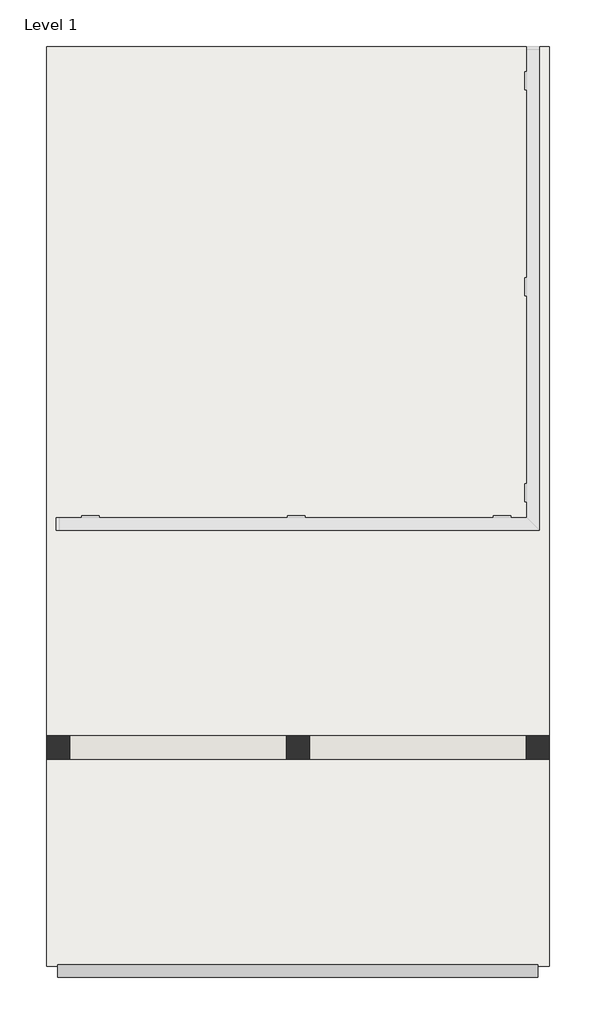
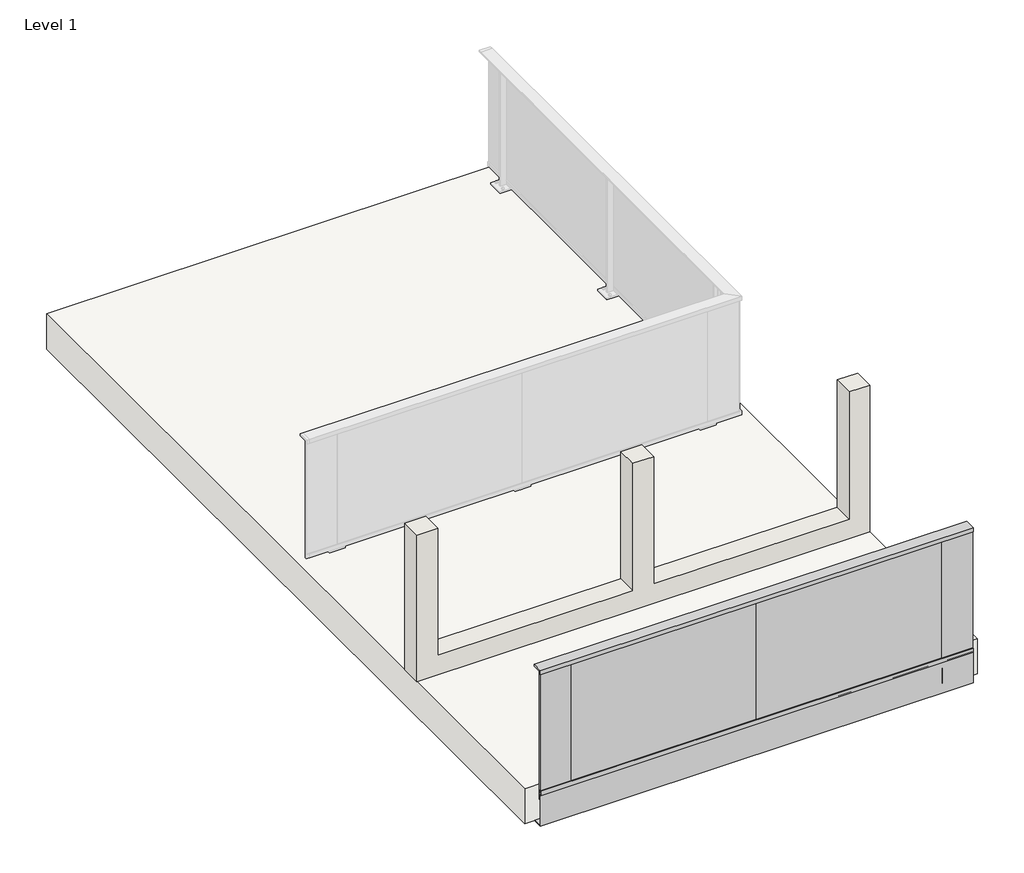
# One storey, part 1 of 2: 1 railing, 1 slab, 1 wall.
"""IFC4 building model written with IfcOpenShell, lengths in millimetres."""

from ifc_helpers import new_model, si_unit, point, frame, frame_2d, origin, place, context, project, spatial, polyline, circle_curve, ellipse_curve, trimmed, segment, composite_curve, outline, extrude, element, save
from ifc_brep_helpers import plane_surface, cylinder_surface, revolved_surface, advanced_brep

model = new_model("IFC4")

# Units and contexts
model_context = context("Model", 3, world=origin())
ifc_project = project(units=[si_unit("LENGTHUNIT", "METRE", prefix="MILLI")], contexts=[model_context])

# Site, building, storey
site = spatial("IfcSite", under=ifc_project)
building = spatial("IfcBuilding", under=site)
storey = spatial("IfcBuildingStorey", under=building, Name="Level 1", Elevation=0.0)

# Railing
placement = place(None, origin())
element("IfcRailing", 1, ObjectType="Klair Garde-Corps - Pose Nez Dalle", at=placement, inside=storey, context=model_context, shape_type="SolidModel", body=[
    extrude(outline(polyline([(1643.0410088, -38.0), (1643.0410088, 0.0), (1649.0410088, 0.0), (1649.0410088, -22.0), (1659.0410088, -22.0), (1659.0410088, 0.0), (1664.0410088, 0.0), (1664.0410088, -78.0), (1661.0410088, -78.0), (1661.0410088, -27.0), (1651.0410088, -27.0), (1651.0410088, -38.0), (1649.0410088, -38.0), (1649.0410088, -27.0), (1645.0410088, -27.0), (1645.0410088, -38.0), (1643.0410088, -38.0)])), frame((-13869.6075858, 0.0, 0.0), z_axis=(1.0, 0.0, 0.0), x_axis=(0.0, 1.0, 0.0)), (0.0, 0.0, 1.0), 3500.0),
    extrude(outline(polyline([(1645.0410088, -300.0), (1645.0410088, -27.0), (1648.0410088, -27.0), (1648.0410088, -297.0), (1725.0410088, -297.0), (1725.0410088, -300.0), (1645.0410088, -300.0)])), frame((-13869.6075858, 0.0, 0.0), z_axis=(1.0, 0.0, 0.0), x_axis=(0.0, 1.0, 0.0)), (0.0, 0.0, 1.0), 3500.0),
    extrude(outline(polyline([(1643.5410088, 1030.0), (1733.5410088, 1030.0), (1733.5410088, 1015.0), (1664.0410088, 1015.0), (1664.0410088, 996.0), (1659.0410088, 996.0), (1659.0410088, 1018.0), (1649.0410088, 1018.0), (1649.0410088, 996.0), (1643.5410088, 996.0), (1643.5410088, 1030.0)])), frame((-13869.6075858, 0.0, 0.0), z_axis=(1.0, 0.0, 0.0), x_axis=(0.0, 1.0, 0.0)), (0.0, 0.0, 1.0), 3500.0),
    extrude(outline(polyline([(-10619.6075858, 1649.0161987), (-10619.6075858, 1659.0161987), (-10369.6075858, 1659.0161987), (-10369.6075858, 1649.0161987), (-10619.6075858, 1649.0161987)])), frame((0.0, 0.0, -22.0), z_axis=(0.0, 0.0, 1.0), x_axis=(1.0, 0.0, 0.0)), (0.0, 0.0, 1.0), 1018.0),
    extrude(outline(polyline([(-13869.6075858, 1649.0161987), (-13869.6075858, 1659.0161987), (-13619.6075858, 1659.0161987), (-13619.6075858, 1649.0161987), (-13869.6075858, 1649.0161987)])), frame((0.0, 0.0, -22.0), z_axis=(0.0, 0.0, 1.0), x_axis=(1.0, 0.0, 0.0)), (0.0, 0.0, 1.0), 1018.0),
    advanced_brep(
    [(-10668.6075858, 1709.0410088, -165.0), (-10668.6075858, 1709.0410088, -156.0087554), (-10668.6075858, 1709.0410088, -173.9912446), (-10668.6075858, 1700.0497642, -165.0)],
    [
        (0, 1),
        (1, 2, circle_curve(frame((-10668.6075858, 1709.0410088, -165.0), z_axis=(0.0, 1.0, 0.0), x_axis=(0.0, 0.0, 1.0)), 8.9912446)),
        (2, 0),
        (2, 1, circle_curve(frame((-10668.6075858, 1709.0410088, -165.0), z_axis=(0.0, 1.0, 0.0), x_axis=(0.0, 0.0, 1.0)), 8.9912446)),
        (1, 3, circle_curve(frame((-10668.6075858, 1709.0410088, -165.0), z_axis=(1.0, 0.0, 0.0), x_axis=(0.0, 1.0, 0.0)), 8.9912446)),
        (3, 2, circle_curve(frame((-10668.6075858, 1709.0410088, -165.0), z_axis=(1.0, 0.0, 0.0), x_axis=(0.0, 1.0, 0.0)), 8.9912446)),
    ],
    [
        plane_surface(frame((-10668.6075858, 1709.0410088, -165.0), z_axis=(0.0, 1.0, 0.0), x_axis=(0.0, 0.0, 1.0))),
        revolved_surface(trimmed(ellipse_curve(frame((-10668.6075858, 1709.0410088, -165.0), z_axis=(-1.0, 0.0, 0.0), x_axis=(0.0, 1.0, 0.0)), 8.9912446, 8.9912446), [point((-10668.6075858, 1700.0497642, -165.0))], [point((-10668.6075858, 1709.0410088, -156.0087554))], True, "CARTESIAN"), (-10668.6075858, 1709.0410088, -165.0), (0.0, 1.0, 0.0)),
    ],
    [
        (0, [[1, 2, 3]]),
        (0, [[-3, 4, -1]]),
        (1, [[-2, 5, 6]]),
        (1, [[-4, -6, -5]]),
    ],
),
    advanced_brep(
    [(-10570.6075858, 1709.0410088, -173.9912446), (-10570.6075858, 1709.0410088, -156.0087554), (-10570.6075858, 1709.0410088, -165.0), (-10570.6075858, 1700.0497642, -165.0)],
    [
        (0, 1, circle_curve(frame((-10570.6075858, 1709.0410088, -165.0), z_axis=(0.0, 1.0, 0.0), x_axis=(0.0, 0.0, 1.0)), 8.9912446)),
        (1, 2),
        (2, 0),
        (1, 0, circle_curve(frame((-10570.6075858, 1709.0410088, -165.0), z_axis=(0.0, 1.0, 0.0), x_axis=(0.0, 0.0, 1.0)), 8.9912446)),
        (3, 1, circle_curve(frame((-10570.6075858, 1709.0410088, -165.0), z_axis=(-1.0, 0.0, 0.0), x_axis=(0.0, 1.0, 0.0)), 8.9912446)),
        (0, 3, circle_curve(frame((-10570.6075858, 1709.0410088, -165.0), z_axis=(-1.0, 0.0, 0.0), x_axis=(0.0, 1.0, 0.0)), 8.9912446)),
    ],
    [
        plane_surface(frame((-10570.6075858, 1709.0410088, -165.0), z_axis=(0.0, 1.0, 0.0), x_axis=(0.0, 0.0, 1.0))),
        revolved_surface(trimmed(ellipse_curve(frame((-10570.6075858, 1709.0410088, -165.0), z_axis=(1.0, 0.0, 0.0), x_axis=(0.0, 1.0, 0.0)), 8.9912446, 8.9912446), [point((-10570.6075858, 1709.0410088, -156.0087554))], [point((-10570.6075858, 1700.0497642, -165.0))], True, "CARTESIAN"), (-10570.6075858, 1709.0410088, -165.0), (0.0, -1.0, 0.0)),
    ],
    [
        (0, [[1, 2, 3]]),
        (0, [[4, -3, -2]]),
        (1, [[5, -1, 6]]),
        (1, [[-6, -4, -5]]),
    ],
),
    extrude(outline(polyline([(-172.1820809, -10563.4255048), (-165.0, -10560.4505895), (-157.8179191, -10563.4255048), (-154.8430037, -10570.6075858), (-157.8179191, -10577.7896667), (-165.0, -10580.764582), (-172.1820809, -10577.7896667), (-175.1569963, -10570.6075858), (-172.1820809, -10563.4255048)])), frame((0.0, 1709.0410088, 0.0), z_axis=(0.0, 1.0, 0.0), x_axis=(0.0, 0.0, 1.0)), (0.0, 0.0, 1.0), 5.0),
    extrude(outline(polyline([(-172.1820809, -10675.7896667), (-175.1569963, -10668.6075858), (-172.1820809, -10661.4255048), (-165.0, -10658.4505895), (-157.8179191, -10661.4255048), (-154.8430037, -10668.6075858), (-157.8179191, -10675.7896667), (-165.0, -10678.764582), (-172.1820809, -10675.7896667)])), frame((0.0, 1709.0410088, 0.0), z_axis=(0.0, 1.0, 0.0), x_axis=(0.0, 0.0, 1.0)), (0.0, 0.0, 1.0), 5.0),
    advanced_brep(
    [(-10648.1303524, 1714.0410088, -100.0), (-10641.1075858, 1707.0182422, -100.0), (-10641.1075858, 1664.4910088, -100.0), (-10626.6575858, 1650.0410088, -100.0), (-10612.5575858, 1650.0410088, -100.0), (-10598.1075858, 1664.4910088, -100.0), (-10598.1075858, 1707.0182422, -100.0), (-10591.0848192, 1714.0410088, -100.0), (-10567.1075858, 1714.0410088, -100.0), (-10567.1075858, 1725.0410088, -100.0), (-10672.1075858, 1725.0410088, -100.0), (-10672.1075858, 1714.0410088, -100.0), (-10630.1075858, 1664.4910088, -100.0), (-10630.1075858, 1714.0410088, -100.0), (-10609.1075858, 1714.0410088, -100.0), (-10609.1075858, 1664.4910088, -100.0), (-10612.5575858, 1661.0410088, -100.0), (-10626.6575858, 1661.0410088, -100.0), (-10641.1075858, 1707.0182422, -230.0), (-10648.1303524, 1714.0410088, -230.0), (-10672.1075858, 1714.0410088, -230.0), (-10672.1075858, 1725.0410088, -230.0), (-10567.1075858, 1725.0410088, -230.0), (-10567.1075858, 1714.0410088, -230.0), (-10591.0848192, 1714.0410088, -230.0), (-10598.1075858, 1707.0182422, -230.0), (-10598.1075858, 1664.4910088, -230.0), (-10612.5575858, 1650.0410088, -230.0), (-10626.6575858, 1650.0410088, -230.0), (-10641.1075858, 1664.4910088, -230.0), (-10630.1075858, 1714.0410088, -230.0), (-10630.1075858, 1664.4910088, -230.0), (-10626.6575858, 1661.0410088, -230.0), (-10612.5575858, 1661.0410088, -230.0), (-10609.1075858, 1664.4910088, -230.0), (-10609.1075858, 1714.0410088, -230.0), (-10687.1075858, 1725.0410088, -115.0), (-10552.1075858, 1725.0410088, -115.0), (-10552.1075858, 1725.0410088, -215.0), (-10687.1075858, 1725.0410088, -215.0), (-10687.1075858, 1714.0410088, -115.0), (-10687.1075858, 1714.0410088, -215.0), (-10552.1075858, 1714.0410088, -215.0), (-10552.1075858, 1714.0410088, -115.0)],
    [
        (0, 1, circle_curve(frame((-10648.1303524, 1707.0182422, -100.0), z_axis=(0.0, 0.0, -1.0), x_axis=(0.0, 1.0, 0.0)), 7.0227666)),
        (1, 2),
        (2, 3, circle_curve(frame((-10626.6575858, 1664.4910088, -100.0), z_axis=(0.0, 0.0, 1.0), x_axis=(0.0, 1.0, 0.0)), 14.45)),
        (3, 4),
        (4, 5, circle_curve(frame((-10612.5575858, 1664.4910088, -100.0), z_axis=(0.0, 0.0, 1.0), x_axis=(0.0, 1.0, 0.0)), 14.45)),
        (5, 6),
        (6, 7, circle_curve(frame((-10591.0848192, 1707.0182422, -100.0), z_axis=(0.0, 0.0, -1.0), x_axis=(0.0, 1.0, 0.0)), 7.0227666)),
        (7, 8),
        (8, 9),
        (9, 10),
        (10, 11),
        (11, 0),
        (12, 13),
        (13, 14),
        (14, 15),
        (15, 16, circle_curve(frame((-10612.5575858, 1664.4910088, -100.0), z_axis=(0.0, 0.0, -1.0), x_axis=(0.0, 1.0, 0.0)), 3.45)),
        (16, 17),
        (17, 12, circle_curve(frame((-10626.6575858, 1664.4910088, -100.0), z_axis=(0.0, 0.0, -1.0), x_axis=(0.0, 1.0, 0.0)), 3.45)),
        (18, 19, circle_curve(frame((-10648.1303524, 1707.0182422, -230.0), z_axis=(0.0, 0.0, 1.0), x_axis=(0.0, 1.0, 0.0)), 7.0227666)),
        (19, 20),
        (20, 21),
        (21, 22),
        (22, 23),
        (23, 24),
        (24, 25, circle_curve(frame((-10591.0848192, 1707.0182422, -230.0), z_axis=(0.0, 0.0, 1.0), x_axis=(0.0, 1.0, 0.0)), 7.0227666)),
        (25, 26),
        (26, 27, circle_curve(frame((-10612.5575858, 1664.4910088, -230.0), z_axis=(0.0, 0.0, -1.0), x_axis=(0.0, 1.0, 0.0)), 14.45)),
        (27, 28),
        (28, 29, circle_curve(frame((-10626.6575858, 1664.4910088, -230.0), z_axis=(0.0, 0.0, -1.0), x_axis=(0.0, 1.0, 0.0)), 14.45)),
        (29, 18),
        (30, 31),
        (31, 32, circle_curve(frame((-10626.6575858, 1664.4910088, -230.0), z_axis=(0.0, 0.0, 1.0), x_axis=(0.0, 1.0, 0.0)), 3.45)),
        (32, 33),
        (33, 34, circle_curve(frame((-10612.5575858, 1664.4910088, -230.0), z_axis=(0.0, 0.0, 1.0), x_axis=(0.0, 1.0, 0.0)), 3.45)),
        (34, 35),
        (35, 30),
        (36, 10, circle_curve(frame((-10672.1075858, 1725.0410088, -115.0), z_axis=(0.0, 1.0, 0.0), x_axis=(1.0, 0.0, 0.0)), 15.0)),
        (9, 37, circle_curve(frame((-10567.1075858, 1725.0410088, -115.0), z_axis=(0.0, 1.0, 0.0), x_axis=(1.0, 0.0, 0.0)), 15.0)),
        (37, 38),
        (38, 22, circle_curve(frame((-10567.1075858, 1725.0410088, -215.0), z_axis=(0.0, 1.0, 0.0), x_axis=(1.0, 0.0, 0.0)), 15.0)),
        (21, 39, circle_curve(frame((-10672.1075858, 1725.0410088, -215.0), z_axis=(0.0, 1.0, 0.0), x_axis=(1.0, 0.0, 0.0)), 15.0)),
        (39, 36),
        (13, 30),
        (35, 14),
        (40, 41),
        (41, 20, circle_curve(frame((-10672.1075858, 1714.0410088, -215.0), z_axis=(0.0, -1.0, 0.0), x_axis=(1.0, 0.0, 0.0)), 15.0)),
        (19, 0),
        (11, 40, circle_curve(frame((-10672.1075858, 1714.0410088, -115.0), z_axis=(0.0, -1.0, 0.0), x_axis=(1.0, 0.0, 0.0)), 15.0)),
        (23, 42, circle_curve(frame((-10567.1075858, 1714.0410088, -215.0), z_axis=(0.0, -1.0, 0.0), x_axis=(1.0, 0.0, 0.0)), 15.0)),
        (42, 43),
        (43, 8, circle_curve(frame((-10567.1075858, 1714.0410088, -115.0), z_axis=(0.0, -1.0, 0.0), x_axis=(1.0, 0.0, 0.0)), 15.0)),
        (7, 24),
        (39, 41),
        (40, 36),
        (38, 42),
        (37, 43),
        (18, 1),
        (29, 2),
        (28, 3),
        (27, 4),
        (26, 5),
        (25, 6),
        (34, 15),
        (33, 16),
        (32, 17),
        (31, 12),
    ],
    [
        plane_surface(frame((-10687.1075858, 1714.0410088, -100.0), z_axis=(0.0, 0.0, 1.0), x_axis=(-1.0, 0.0, 0.0))),
        plane_surface(frame((-10687.1075858, 1714.0410088, -230.0), z_axis=(0.0, 0.0, -1.0), x_axis=(1.0, 0.0, 0.0))),
        plane_surface(frame((-10657.1075858, 1725.0410088, -115.0), z_axis=(0.0, 1.0, 0.0), x_axis=(0.0, 0.0, -1.0))),
        plane_surface(frame((-10657.1075858, 1714.0410088, -115.0), z_axis=(0.0, -1.0, 0.0), x_axis=(0.0, 0.0, 1.0))),
        plane_surface(frame((-10687.1075858, 1725.0410088, -215.0), z_axis=(-1.0, 0.0, 0.0), x_axis=(0.0, -1.0, 0.0))),
        cylinder_surface(frame((-10672.1075858, 1714.0410088, -215.0), z_axis=(0.0, 1.0, 0.0), x_axis=(1.0, 0.0, 0.0)), 15.0),
        cylinder_surface(frame((-10567.1075858, 1714.0410088, -215.0), z_axis=(0.0, 1.0, 0.0), x_axis=(1.0, 0.0, 0.0)), 15.0),
        plane_surface(frame((-10552.1075858, 1725.0410088, -115.0), z_axis=(1.0, 0.0, 0.0), x_axis=(0.0, -1.0, 0.0))),
        cylinder_surface(frame((-10567.1075858, 1714.0410088, -115.0), z_axis=(0.0, 1.0, 0.0), x_axis=(1.0, 0.0, 0.0)), 15.0),
        cylinder_surface(frame((-10672.1075858, 1714.0410088, -115.0), z_axis=(0.0, 1.0, 0.0), x_axis=(1.0, 0.0, 0.0)), 15.0),
        revolved_surface(polyline([(-10648.1303524, 1714.0410088, -230.0), (-10648.1303524, 1714.0410088, -100.0)]), (-10648.1303524, 1707.0182422, -230.0), (0.0, 0.0, -1.0)),
        plane_surface(frame((-10641.1075858, 1707.0182422, -100.0), z_axis=(-1.0, 0.0, 0.0), x_axis=(0.0, 0.0, -1.0))),
        cylinder_surface(frame((-10626.6575858, 1664.4910088, -230.0), z_axis=(0.0, 0.0, 1.0), x_axis=(0.0, 1.0, 0.0)), 14.45),
        plane_surface(frame((-10626.6575858, 1650.0410088, -100.0), z_axis=(0.0, -1.0, 0.0), x_axis=(0.0, 0.0, -1.0))),
        cylinder_surface(frame((-10612.5575858, 1664.4910088, -230.0), z_axis=(0.0, 0.0, 1.0), x_axis=(0.0, 1.0, 0.0)), 14.45),
        plane_surface(frame((-10598.1075858, 1664.4910088, -100.0), z_axis=(1.0, 0.0, 0.0), x_axis=(0.0, 0.0, -1.0))),
        revolved_surface(polyline([(-10591.0848192, 1714.0410088, -230.0), (-10591.0848192, 1714.0410088, -100.0)]), (-10591.0848192, 1707.0182422, -230.0), (0.0, 0.0, -1.0)),
        plane_surface(frame((-10609.1075858, 1714.0410088, -100.0), z_axis=(-1.0, 0.0, 0.0), x_axis=(0.0, 0.0, -1.0))),
        revolved_surface(polyline([(-10612.5575858, 1667.9410088, -230.0), (-10612.5575858, 1667.9410088, -100.0)]), (-10612.5575858, 1664.4910088, -230.0), (0.0, 0.0, -1.0)),
        plane_surface(frame((-10612.5575858, 1661.0410088, -100.0), z_axis=(0.0, 1.0, 0.0), x_axis=(0.0, 0.0, -1.0))),
        revolved_surface(polyline([(-10626.6575858, 1667.9410088, -230.0), (-10626.6575858, 1667.9410088, -100.0)]), (-10626.6575858, 1664.4910088, -230.0), (0.0, 0.0, -1.0)),
        plane_surface(frame((-10630.1075858, 1664.4910088, -100.0), z_axis=(1.0, 0.0, 0.0), x_axis=(0.0, 0.0, -1.0))),
    ],
    [
        (0, [[1, 2, 3, 4, 5, 6, 7, 8, 9, 10, 11, 12], [13, 14, 15, 16, 17, 18]]),
        (1, [[19, 20, 21, 22, 23, 24, 25, 26, 27, 28, 29, 30], [31, 32, 33, 34, 35, 36]]),
        (2, [[37, -10, 38, 39, 40, -22, 41, 42]]),
        (3, [[-14, 43, -36, 44]]),
        (3, [[45, 46, -20, 47, -12, 48]]),
        (3, [[49, 50, 51, -8, 52, -24]]),
        (4, [[-42, 53, -45, 54]]),
        (5, [[-41, -21, -46, -53]]),
        (6, [[-40, 55, -49, -23]]),
        (7, [[-39, 56, -50, -55]]),
        (8, [[-38, -9, -51, -56]]),
        (9, [[-37, -54, -48, -11]]),
        (10, [[-1, -47, -19, 57]]),
        (11, [[-2, -57, -30, 58]]),
        (12, [[-3, -58, -29, 59]]),
        (13, [[-4, -59, -28, 60]]),
        (14, [[-5, -60, -27, 61]]),
        (15, [[-6, -61, -26, 62]]),
        (16, [[-7, -62, -25, -52]]),
        (17, [[-15, -44, -35, 63]]),
        (18, [[-16, -63, -34, 64]]),
        (19, [[-17, -64, -33, 65]]),
        (20, [[-18, -65, -32, 66]]),
        (21, [[-13, -66, -31, -43]]),
    ],
),
    extrude(outline(polyline([(-10627.1075858, 1714.0410088), (-10612.1075858, 1714.0410088), (-10612.1075858, 1664.0410088), (-10627.1075858, 1664.0410088), (-10627.1075858, 1714.0410088)]), holes=[composite_curve([segment(trimmed(circle_curve(frame_2d((-10619.6075858, 1689.0410088)), 5.0234856), [point((-10619.6075858, 1684.0175232))], [point((-10619.6075858, 1694.0644944))], True, "CARTESIAN"), True, "CONTINUOUS"), segment(trimmed(circle_curve(frame_2d((-10619.6075858, 1689.0410088)), 5.0234856), [point((-10619.6075858, 1694.0644944))], [point((-10619.6075858, 1684.0175232))], True, "CARTESIAN"), True, "CONTINUOUS")], self_intersect=False)]), frame((0.0, 0.0, -297.0), z_axis=(0.0, 0.0, 1.0), x_axis=(1.0, 0.0, 0.0)), (0.0, 0.0, 1.0), 1312.0),
    extrude(outline(polyline([(-12119.6075858, 1659.0161987), (-10619.6075858, 1659.0161987), (-10619.6075858, 1649.0161987), (-12119.6075858, 1649.0161987), (-12119.6075858, 1659.0161987)])), frame((0.0, 0.0, -22.0), z_axis=(0.0, 0.0, 1.0), x_axis=(1.0, 0.0, 0.0)), (0.0, 0.0, 1.0), 1040.0),
    extrude(outline(polyline([(1666.5410088, 0.0), (1711.5410088, 0.0), (1711.5410088, -15.0), (1666.5410088, -15.0), (1666.5410088, 0.0)]), holes=[polyline([(1668.0410088, -1.5), (1668.0410088, -13.5), (1710.0410088, -13.5), (1710.0410088, -1.5), (1668.0410088, -1.5)])]), frame((-12112.1075858, 0.0, 0.0), z_axis=(1.0, 0.0, 0.0), x_axis=(0.0, 1.0, 0.0)), (0.0, 0.0, 1.0), 1485.0),
    advanced_brep(
    [(-12168.6075858, 1709.0410088, -165.0), (-12168.6075858, 1709.0410088, -156.0087554), (-12168.6075858, 1709.0410088, -173.9912446), (-12168.6075858, 1700.0497642, -165.0)],
    [
        (0, 1),
        (1, 2, circle_curve(frame((-12168.6075858, 1709.0410088, -165.0), z_axis=(0.0, 1.0, 0.0), x_axis=(0.0, 0.0, 1.0)), 8.9912446)),
        (2, 0),
        (2, 1, circle_curve(frame((-12168.6075858, 1709.0410088, -165.0), z_axis=(0.0, 1.0, 0.0), x_axis=(0.0, 0.0, 1.0)), 8.9912446)),
        (1, 3, circle_curve(frame((-12168.6075858, 1709.0410088, -165.0), z_axis=(1.0, 0.0, 0.0), x_axis=(0.0, 1.0, 0.0)), 8.9912446)),
        (3, 2, circle_curve(frame((-12168.6075858, 1709.0410088, -165.0), z_axis=(1.0, 0.0, 0.0), x_axis=(0.0, 1.0, 0.0)), 8.9912446)),
    ],
    [
        plane_surface(frame((-12168.6075858, 1709.0410088, -165.0), z_axis=(0.0, 1.0, 0.0), x_axis=(0.0, 0.0, 1.0))),
        revolved_surface(trimmed(ellipse_curve(frame((-12168.6075858, 1709.0410088, -165.0), z_axis=(-1.0, 0.0, 0.0), x_axis=(0.0, 1.0, 0.0)), 8.9912446, 8.9912446), [point((-12168.6075858, 1700.0497642, -165.0))], [point((-12168.6075858, 1709.0410088, -156.0087554))], True, "CARTESIAN"), (-12168.6075858, 1709.0410088, -165.0), (0.0, 1.0, 0.0)),
    ],
    [
        (0, [[1, 2, 3]]),
        (0, [[-3, 4, -1]]),
        (1, [[-2, 5, 6]]),
        (1, [[-4, -6, -5]]),
    ],
),
    advanced_brep(
    [(-12070.6075858, 1709.0410088, -173.9912446), (-12070.6075858, 1709.0410088, -156.0087554), (-12070.6075858, 1709.0410088, -165.0), (-12070.6075858, 1700.0497642, -165.0)],
    [
        (0, 1, circle_curve(frame((-12070.6075858, 1709.0410088, -165.0), z_axis=(0.0, 1.0, 0.0), x_axis=(0.0, 0.0, 1.0)), 8.9912446)),
        (1, 2),
        (2, 0),
        (1, 0, circle_curve(frame((-12070.6075858, 1709.0410088, -165.0), z_axis=(0.0, 1.0, 0.0), x_axis=(0.0, 0.0, 1.0)), 8.9912446)),
        (3, 1, circle_curve(frame((-12070.6075858, 1709.0410088, -165.0), z_axis=(-1.0, 0.0, 0.0), x_axis=(0.0, 1.0, 0.0)), 8.9912446)),
        (0, 3, circle_curve(frame((-12070.6075858, 1709.0410088, -165.0), z_axis=(-1.0, 0.0, 0.0), x_axis=(0.0, 1.0, 0.0)), 8.9912446)),
    ],
    [
        plane_surface(frame((-12070.6075858, 1709.0410088, -165.0), z_axis=(0.0, 1.0, 0.0), x_axis=(0.0, 0.0, 1.0))),
        revolved_surface(trimmed(ellipse_curve(frame((-12070.6075858, 1709.0410088, -165.0), z_axis=(1.0, 0.0, 0.0), x_axis=(0.0, 1.0, 0.0)), 8.9912446, 8.9912446), [point((-12070.6075858, 1709.0410088, -156.0087554))], [point((-12070.6075858, 1700.0497642, -165.0))], True, "CARTESIAN"), (-12070.6075858, 1709.0410088, -165.0), (0.0, -1.0, 0.0)),
    ],
    [
        (0, [[1, 2, 3]]),
        (0, [[4, -3, -2]]),
        (1, [[5, -1, 6]]),
        (1, [[-6, -4, -5]]),
    ],
),
    extrude(outline(polyline([(-172.1820809, -12063.4255048), (-165.0, -12060.4505895), (-157.8179191, -12063.4255048), (-154.8430037, -12070.6075858), (-157.8179191, -12077.7896667), (-165.0, -12080.764582), (-172.1820809, -12077.7896667), (-175.1569963, -12070.6075858), (-172.1820809, -12063.4255048)])), frame((0.0, 1709.0410088, 0.0), z_axis=(0.0, 1.0, 0.0), x_axis=(0.0, 0.0, 1.0)), (0.0, 0.0, 1.0), 5.0),
    extrude(outline(polyline([(-172.1820809, -12175.7896667), (-175.1569963, -12168.6075858), (-172.1820809, -12161.4255048), (-165.0, -12158.4505895), (-157.8179191, -12161.4255048), (-154.8430037, -12168.6075858), (-157.8179191, -12175.7896667), (-165.0, -12178.764582), (-172.1820809, -12175.7896667)])), frame((0.0, 1709.0410088, 0.0), z_axis=(0.0, 1.0, 0.0), x_axis=(0.0, 0.0, 1.0)), (0.0, 0.0, 1.0), 5.0),
    advanced_brep(
    [(-12148.1303524, 1714.0410088, -100.0), (-12141.1075858, 1707.0182422, -100.0), (-12141.1075858, 1664.4910088, -100.0), (-12126.6575858, 1650.0410088, -100.0), (-12112.5575858, 1650.0410088, -100.0), (-12098.1075858, 1664.4910088, -100.0), (-12098.1075858, 1707.0182422, -100.0), (-12091.0848192, 1714.0410088, -100.0), (-12067.1075858, 1714.0410088, -100.0), (-12067.1075858, 1725.0410088, -100.0), (-12172.1075858, 1725.0410088, -100.0), (-12172.1075858, 1714.0410088, -100.0), (-12130.1075858, 1664.4910088, -100.0), (-12130.1075858, 1714.0410088, -100.0), (-12109.1075858, 1714.0410088, -100.0), (-12109.1075858, 1664.4910088, -100.0), (-12112.5575858, 1661.0410088, -100.0), (-12126.6575858, 1661.0410088, -100.0), (-12141.1075858, 1707.0182422, -230.0), (-12148.1303524, 1714.0410088, -230.0), (-12172.1075858, 1714.0410088, -230.0), (-12172.1075858, 1725.0410088, -230.0), (-12067.1075858, 1725.0410088, -230.0), (-12067.1075858, 1714.0410088, -230.0), (-12091.0848192, 1714.0410088, -230.0), (-12098.1075858, 1707.0182422, -230.0), (-12098.1075858, 1664.4910088, -230.0), (-12112.5575858, 1650.0410088, -230.0), (-12126.6575858, 1650.0410088, -230.0), (-12141.1075858, 1664.4910088, -230.0), (-12130.1075858, 1714.0410088, -230.0), (-12130.1075858, 1664.4910088, -230.0), (-12126.6575858, 1661.0410088, -230.0), (-12112.5575858, 1661.0410088, -230.0), (-12109.1075858, 1664.4910088, -230.0), (-12109.1075858, 1714.0410088, -230.0), (-12187.1075858, 1725.0410088, -115.0), (-12052.1075858, 1725.0410088, -115.0), (-12052.1075858, 1725.0410088, -215.0), (-12187.1075858, 1725.0410088, -215.0), (-12187.1075858, 1714.0410088, -115.0), (-12187.1075858, 1714.0410088, -215.0), (-12052.1075858, 1714.0410088, -215.0), (-12052.1075858, 1714.0410088, -115.0)],
    [
        (0, 1, circle_curve(frame((-12148.1303524, 1707.0182422, -100.0), z_axis=(0.0, 0.0, -1.0), x_axis=(0.0, 1.0, 0.0)), 7.0227666)),
        (1, 2),
        (2, 3, circle_curve(frame((-12126.6575858, 1664.4910088, -100.0), z_axis=(0.0, 0.0, 1.0), x_axis=(0.0, 1.0, 0.0)), 14.45)),
        (3, 4),
        (4, 5, circle_curve(frame((-12112.5575858, 1664.4910088, -100.0), z_axis=(0.0, 0.0, 1.0), x_axis=(0.0, 1.0, 0.0)), 14.45)),
        (5, 6),
        (6, 7, circle_curve(frame((-12091.0848192, 1707.0182422, -100.0), z_axis=(0.0, 0.0, -1.0), x_axis=(0.0, 1.0, 0.0)), 7.0227666)),
        (7, 8),
        (8, 9),
        (9, 10),
        (10, 11),
        (11, 0),
        (12, 13),
        (13, 14),
        (14, 15),
        (15, 16, circle_curve(frame((-12112.5575858, 1664.4910088, -100.0), z_axis=(0.0, 0.0, -1.0), x_axis=(0.0, 1.0, 0.0)), 3.45)),
        (16, 17),
        (17, 12, circle_curve(frame((-12126.6575858, 1664.4910088, -100.0), z_axis=(0.0, 0.0, -1.0), x_axis=(0.0, 1.0, 0.0)), 3.45)),
        (18, 19, circle_curve(frame((-12148.1303524, 1707.0182422, -230.0), z_axis=(0.0, 0.0, 1.0), x_axis=(0.0, 1.0, 0.0)), 7.0227666)),
        (19, 20),
        (20, 21),
        (21, 22),
        (22, 23),
        (23, 24),
        (24, 25, circle_curve(frame((-12091.0848192, 1707.0182422, -230.0), z_axis=(0.0, 0.0, 1.0), x_axis=(0.0, 1.0, 0.0)), 7.0227666)),
        (25, 26),
        (26, 27, circle_curve(frame((-12112.5575858, 1664.4910088, -230.0), z_axis=(0.0, 0.0, -1.0), x_axis=(0.0, 1.0, 0.0)), 14.45)),
        (27, 28),
        (28, 29, circle_curve(frame((-12126.6575858, 1664.4910088, -230.0), z_axis=(0.0, 0.0, -1.0), x_axis=(0.0, 1.0, 0.0)), 14.45)),
        (29, 18),
        (30, 31),
        (31, 32, circle_curve(frame((-12126.6575858, 1664.4910088, -230.0), z_axis=(0.0, 0.0, 1.0), x_axis=(0.0, 1.0, 0.0)), 3.45)),
        (32, 33),
        (33, 34, circle_curve(frame((-12112.5575858, 1664.4910088, -230.0), z_axis=(0.0, 0.0, 1.0), x_axis=(0.0, 1.0, 0.0)), 3.45)),
        (34, 35),
        (35, 30),
        (36, 10, circle_curve(frame((-12172.1075858, 1725.0410088, -115.0), z_axis=(0.0, 1.0, 0.0), x_axis=(1.0, 0.0, 0.0)), 15.0)),
        (9, 37, circle_curve(frame((-12067.1075858, 1725.0410088, -115.0), z_axis=(0.0, 1.0, 0.0), x_axis=(1.0, 0.0, 0.0)), 15.0)),
        (37, 38),
        (38, 22, circle_curve(frame((-12067.1075858, 1725.0410088, -215.0), z_axis=(0.0, 1.0, 0.0), x_axis=(1.0, 0.0, 0.0)), 15.0)),
        (21, 39, circle_curve(frame((-12172.1075858, 1725.0410088, -215.0), z_axis=(0.0, 1.0, 0.0), x_axis=(1.0, 0.0, 0.0)), 15.0)),
        (39, 36),
        (13, 30),
        (35, 14),
        (40, 41),
        (41, 20, circle_curve(frame((-12172.1075858, 1714.0410088, -215.0), z_axis=(0.0, -1.0, 0.0), x_axis=(1.0, 0.0, 0.0)), 15.0)),
        (19, 0),
        (11, 40, circle_curve(frame((-12172.1075858, 1714.0410088, -115.0), z_axis=(0.0, -1.0, 0.0), x_axis=(1.0, 0.0, 0.0)), 15.0)),
        (23, 42, circle_curve(frame((-12067.1075858, 1714.0410088, -215.0), z_axis=(0.0, -1.0, 0.0), x_axis=(1.0, 0.0, 0.0)), 15.0)),
        (42, 43),
        (43, 8, circle_curve(frame((-12067.1075858, 1714.0410088, -115.0), z_axis=(0.0, -1.0, 0.0), x_axis=(1.0, 0.0, 0.0)), 15.0)),
        (7, 24),
        (39, 41),
        (40, 36),
        (38, 42),
        (37, 43),
        (18, 1),
        (29, 2),
        (28, 3),
        (27, 4),
        (26, 5),
        (25, 6),
        (34, 15),
        (33, 16),
        (32, 17),
        (31, 12),
    ],
    [
        plane_surface(frame((-12187.1075858, 1714.0410088, -100.0), z_axis=(0.0, 0.0, 1.0), x_axis=(-1.0, 0.0, 0.0))),
        plane_surface(frame((-12187.1075858, 1714.0410088, -230.0), z_axis=(0.0, 0.0, -1.0), x_axis=(1.0, 0.0, 0.0))),
        plane_surface(frame((-12157.1075858, 1725.0410088, -115.0), z_axis=(0.0, 1.0, 0.0), x_axis=(0.0, 0.0, -1.0))),
        plane_surface(frame((-12157.1075858, 1714.0410088, -115.0), z_axis=(0.0, -1.0, 0.0), x_axis=(0.0, 0.0, 1.0))),
        plane_surface(frame((-12187.1075858, 1725.0410088, -215.0), z_axis=(-1.0, 0.0, 0.0), x_axis=(0.0, -1.0, 0.0))),
        cylinder_surface(frame((-12172.1075858, 1714.0410088, -215.0), z_axis=(0.0, 1.0, 0.0), x_axis=(1.0, 0.0, 0.0)), 15.0),
        cylinder_surface(frame((-12067.1075858, 1714.0410088, -215.0), z_axis=(0.0, 1.0, 0.0), x_axis=(1.0, 0.0, 0.0)), 15.0),
        plane_surface(frame((-12052.1075858, 1725.0410088, -115.0), z_axis=(1.0, 0.0, 0.0), x_axis=(0.0, -1.0, 0.0))),
        cylinder_surface(frame((-12067.1075858, 1714.0410088, -115.0), z_axis=(0.0, 1.0, 0.0), x_axis=(1.0, 0.0, 0.0)), 15.0),
        cylinder_surface(frame((-12172.1075858, 1714.0410088, -115.0), z_axis=(0.0, 1.0, 0.0), x_axis=(1.0, 0.0, 0.0)), 15.0),
        revolved_surface(polyline([(-12148.1303524, 1714.0410088, -230.0), (-12148.1303524, 1714.0410088, -100.0)]), (-12148.1303524, 1707.0182422, -230.0), (0.0, 0.0, -1.0)),
        plane_surface(frame((-12141.1075858, 1707.0182422, -100.0), z_axis=(-1.0, 0.0, 0.0), x_axis=(0.0, 0.0, -1.0))),
        cylinder_surface(frame((-12126.6575858, 1664.4910088, -230.0), z_axis=(0.0, 0.0, 1.0), x_axis=(0.0, 1.0, 0.0)), 14.45),
        plane_surface(frame((-12126.6575858, 1650.0410088, -100.0), z_axis=(0.0, -1.0, 0.0), x_axis=(0.0, 0.0, -1.0))),
        cylinder_surface(frame((-12112.5575858, 1664.4910088, -230.0), z_axis=(0.0, 0.0, 1.0), x_axis=(0.0, 1.0, 0.0)), 14.45),
        plane_surface(frame((-12098.1075858, 1664.4910088, -100.0), z_axis=(1.0, 0.0, 0.0), x_axis=(0.0, 0.0, -1.0))),
        revolved_surface(polyline([(-12091.0848192, 1714.0410088, -230.0), (-12091.0848192, 1714.0410088, -100.0)]), (-12091.0848192, 1707.0182422, -230.0), (0.0, 0.0, -1.0)),
        plane_surface(frame((-12109.1075858, 1714.0410088, -100.0), z_axis=(-1.0, 0.0, 0.0), x_axis=(0.0, 0.0, -1.0))),
        revolved_surface(polyline([(-12112.5575858, 1667.9410088, -230.0), (-12112.5575858, 1667.9410088, -100.0)]), (-12112.5575858, 1664.4910088, -230.0), (0.0, 0.0, -1.0)),
        plane_surface(frame((-12112.5575858, 1661.0410088, -100.0), z_axis=(0.0, 1.0, 0.0), x_axis=(0.0, 0.0, -1.0))),
        revolved_surface(polyline([(-12126.6575858, 1667.9410088, -230.0), (-12126.6575858, 1667.9410088, -100.0)]), (-12126.6575858, 1664.4910088, -230.0), (0.0, 0.0, -1.0)),
        plane_surface(frame((-12130.1075858, 1664.4910088, -100.0), z_axis=(1.0, 0.0, 0.0), x_axis=(0.0, 0.0, -1.0))),
    ],
    [
        (0, [[1, 2, 3, 4, 5, 6, 7, 8, 9, 10, 11, 12], [13, 14, 15, 16, 17, 18]]),
        (1, [[19, 20, 21, 22, 23, 24, 25, 26, 27, 28, 29, 30], [31, 32, 33, 34, 35, 36]]),
        (2, [[37, -10, 38, 39, 40, -22, 41, 42]]),
        (3, [[-14, 43, -36, 44]]),
        (3, [[45, 46, -20, 47, -12, 48]]),
        (3, [[49, 50, 51, -8, 52, -24]]),
        (4, [[-42, 53, -45, 54]]),
        (5, [[-41, -21, -46, -53]]),
        (6, [[-40, 55, -49, -23]]),
        (7, [[-39, 56, -50, -55]]),
        (8, [[-38, -9, -51, -56]]),
        (9, [[-37, -54, -48, -11]]),
        (10, [[-1, -47, -19, 57]]),
        (11, [[-2, -57, -30, 58]]),
        (12, [[-3, -58, -29, 59]]),
        (13, [[-4, -59, -28, 60]]),
        (14, [[-5, -60, -27, 61]]),
        (15, [[-6, -61, -26, 62]]),
        (16, [[-7, -62, -25, -52]]),
        (17, [[-15, -44, -35, 63]]),
        (18, [[-16, -63, -34, 64]]),
        (19, [[-17, -64, -33, 65]]),
        (20, [[-18, -65, -32, 66]]),
        (21, [[-13, -66, -31, -43]]),
    ],
),
    extrude(outline(polyline([(-12127.1075858, 1714.0410088), (-12112.1075858, 1714.0410088), (-12112.1075858, 1664.0410088), (-12127.1075858, 1664.0410088), (-12127.1075858, 1714.0410088)]), holes=[composite_curve([segment(trimmed(circle_curve(frame_2d((-12119.6075858, 1689.0410088)), 5.0234856), [point((-12119.6075858, 1684.0175232))], [point((-12119.6075858, 1694.0644944))], True, "CARTESIAN"), True, "CONTINUOUS"), segment(trimmed(circle_curve(frame_2d((-12119.6075858, 1689.0410088)), 5.0234856), [point((-12119.6075858, 1694.0644944))], [point((-12119.6075858, 1684.0175232))], True, "CARTESIAN"), True, "CONTINUOUS")], self_intersect=False)]), frame((0.0, 0.0, -297.0), z_axis=(0.0, 0.0, 1.0), x_axis=(1.0, 0.0, 0.0)), (0.0, 0.0, 1.0), 1312.0),
    extrude(outline(polyline([(-13619.6075858, 1659.0161987), (-12119.6075858, 1659.0161987), (-12119.6075858, 1649.0161987), (-13619.6075858, 1649.0161987), (-13619.6075858, 1659.0161987)])), frame((0.0, 0.0, -22.0), z_axis=(0.0, 0.0, 1.0), x_axis=(1.0, 0.0, 0.0)), (0.0, 0.0, 1.0), 1040.0),
    extrude(outline(polyline([(1666.5410088, 0.0), (1711.5410088, 0.0), (1711.5410088, -15.0), (1666.5410088, -15.0), (1666.5410088, 0.0)]), holes=[polyline([(1668.0410088, -1.5), (1668.0410088, -13.5), (1710.0410088, -13.5), (1710.0410088, -1.5), (1668.0410088, -1.5)])]), frame((-13612.1075858, 0.0, 0.0), z_axis=(1.0, 0.0, 0.0), x_axis=(0.0, 1.0, 0.0)), (0.0, 0.0, 1.0), 1485.0),
    advanced_brep(
    [(-13668.6075858, 1709.0410088, -165.0), (-13668.6075858, 1709.0410088, -156.0087554), (-13668.6075858, 1709.0410088, -173.9912446), (-13668.6075858, 1700.0497642, -165.0)],
    [
        (0, 1),
        (1, 2, circle_curve(frame((-13668.6075858, 1709.0410088, -165.0), z_axis=(0.0, 1.0, 0.0), x_axis=(0.0, 0.0, 1.0)), 8.9912446)),
        (2, 0),
        (2, 1, circle_curve(frame((-13668.6075858, 1709.0410088, -165.0), z_axis=(0.0, 1.0, 0.0), x_axis=(0.0, 0.0, 1.0)), 8.9912446)),
        (1, 3, circle_curve(frame((-13668.6075858, 1709.0410088, -165.0), z_axis=(1.0, 0.0, 0.0), x_axis=(0.0, 1.0, 0.0)), 8.9912446)),
        (3, 2, circle_curve(frame((-13668.6075858, 1709.0410088, -165.0), z_axis=(1.0, 0.0, 0.0), x_axis=(0.0, 1.0, 0.0)), 8.9912446)),
    ],
    [
        plane_surface(frame((-13668.6075858, 1709.0410088, -165.0), z_axis=(0.0, 1.0, 0.0), x_axis=(0.0, 0.0, 1.0))),
        revolved_surface(trimmed(ellipse_curve(frame((-13668.6075858, 1709.0410088, -165.0), z_axis=(-1.0, 0.0, 0.0), x_axis=(0.0, 1.0, 0.0)), 8.9912446, 8.9912446), [point((-13668.6075858, 1700.0497642, -165.0))], [point((-13668.6075858, 1709.0410088, -156.0087554))], True, "CARTESIAN"), (-13668.6075858, 1709.0410088, -165.0), (0.0, 1.0, 0.0)),
    ],
    [
        (0, [[1, 2, 3]]),
        (0, [[-3, 4, -1]]),
        (1, [[-2, 5, 6]]),
        (1, [[-4, -6, -5]]),
    ],
),
    advanced_brep(
    [(-13570.6075858, 1709.0410088, -173.9912446), (-13570.6075858, 1709.0410088, -156.0087554), (-13570.6075858, 1709.0410088, -165.0), (-13570.6075858, 1700.0497642, -165.0)],
    [
        (0, 1, circle_curve(frame((-13570.6075858, 1709.0410088, -165.0), z_axis=(0.0, 1.0, 0.0), x_axis=(0.0, 0.0, 1.0)), 8.9912446)),
        (1, 2),
        (2, 0),
        (1, 0, circle_curve(frame((-13570.6075858, 1709.0410088, -165.0), z_axis=(0.0, 1.0, 0.0), x_axis=(0.0, 0.0, 1.0)), 8.9912446)),
        (3, 1, circle_curve(frame((-13570.6075858, 1709.0410088, -165.0), z_axis=(-1.0, 0.0, 0.0), x_axis=(0.0, 1.0, 0.0)), 8.9912446)),
        (0, 3, circle_curve(frame((-13570.6075858, 1709.0410088, -165.0), z_axis=(-1.0, 0.0, 0.0), x_axis=(0.0, 1.0, 0.0)), 8.9912446)),
    ],
    [
        plane_surface(frame((-13570.6075858, 1709.0410088, -165.0), z_axis=(0.0, 1.0, 0.0), x_axis=(0.0, 0.0, 1.0))),
        revolved_surface(trimmed(ellipse_curve(frame((-13570.6075858, 1709.0410088, -165.0), z_axis=(1.0, 0.0, 0.0), x_axis=(0.0, 1.0, 0.0)), 8.9912446, 8.9912446), [point((-13570.6075858, 1709.0410088, -156.0087554))], [point((-13570.6075858, 1700.0497642, -165.0))], True, "CARTESIAN"), (-13570.6075858, 1709.0410088, -165.0), (0.0, -1.0, 0.0)),
    ],
    [
        (0, [[1, 2, 3]]),
        (0, [[4, -3, -2]]),
        (1, [[5, -1, 6]]),
        (1, [[-6, -4, -5]]),
    ],
),
    extrude(outline(polyline([(-172.1820809, -13563.4255048), (-165.0, -13560.4505895), (-157.8179191, -13563.4255048), (-154.8430037, -13570.6075858), (-157.8179191, -13577.7896667), (-165.0, -13580.764582), (-172.1820809, -13577.7896667), (-175.1569963, -13570.6075858), (-172.1820809, -13563.4255048)])), frame((0.0, 1709.0410088, 0.0), z_axis=(0.0, 1.0, 0.0), x_axis=(0.0, 0.0, 1.0)), (0.0, 0.0, 1.0), 5.0),
    extrude(outline(polyline([(-172.1820809, -13675.7896667), (-175.1569963, -13668.6075858), (-172.1820809, -13661.4255048), (-165.0, -13658.4505895), (-157.8179191, -13661.4255048), (-154.8430037, -13668.6075858), (-157.8179191, -13675.7896667), (-165.0, -13678.764582), (-172.1820809, -13675.7896667)])), frame((0.0, 1709.0410088, 0.0), z_axis=(0.0, 1.0, 0.0), x_axis=(0.0, 0.0, 1.0)), (0.0, 0.0, 1.0), 5.0),
    advanced_brep(
    [(-13648.1303524, 1714.0410088, -100.0), (-13641.1075858, 1707.0182422, -100.0), (-13641.1075858, 1664.4910088, -100.0), (-13626.6575858, 1650.0410088, -100.0), (-13612.5575858, 1650.0410088, -100.0), (-13598.1075858, 1664.4910088, -100.0), (-13598.1075858, 1707.0182422, -100.0), (-13591.0848192, 1714.0410088, -100.0), (-13567.1075858, 1714.0410088, -100.0), (-13567.1075858, 1725.0410088, -100.0), (-13672.1075858, 1725.0410088, -100.0), (-13672.1075858, 1714.0410088, -100.0), (-13630.1075858, 1664.4910088, -100.0), (-13630.1075858, 1714.0410088, -100.0), (-13609.1075858, 1714.0410088, -100.0), (-13609.1075858, 1664.4910088, -100.0), (-13612.5575858, 1661.0410088, -100.0), (-13626.6575858, 1661.0410088, -100.0), (-13641.1075858, 1707.0182422, -230.0), (-13648.1303524, 1714.0410088, -230.0), (-13672.1075858, 1714.0410088, -230.0), (-13672.1075858, 1725.0410088, -230.0), (-13567.1075858, 1725.0410088, -230.0), (-13567.1075858, 1714.0410088, -230.0), (-13591.0848192, 1714.0410088, -230.0), (-13598.1075858, 1707.0182422, -230.0), (-13598.1075858, 1664.4910088, -230.0), (-13612.5575858, 1650.0410088, -230.0), (-13626.6575858, 1650.0410088, -230.0), (-13641.1075858, 1664.4910088, -230.0), (-13630.1075858, 1714.0410088, -230.0), (-13630.1075858, 1664.4910088, -230.0), (-13626.6575858, 1661.0410088, -230.0), (-13612.5575858, 1661.0410088, -230.0), (-13609.1075858, 1664.4910088, -230.0), (-13609.1075858, 1714.0410088, -230.0), (-13687.1075858, 1725.0410088, -115.0), (-13552.1075858, 1725.0410088, -115.0), (-13552.1075858, 1725.0410088, -215.0), (-13687.1075858, 1725.0410088, -215.0), (-13687.1075858, 1714.0410088, -115.0), (-13687.1075858, 1714.0410088, -215.0), (-13552.1075858, 1714.0410088, -215.0), (-13552.1075858, 1714.0410088, -115.0)],
    [
        (0, 1, circle_curve(frame((-13648.1303524, 1707.0182422, -100.0), z_axis=(0.0, 0.0, -1.0), x_axis=(0.0, 1.0, 0.0)), 7.0227666)),
        (1, 2),
        (2, 3, circle_curve(frame((-13626.6575858, 1664.4910088, -100.0), z_axis=(0.0, 0.0, 1.0), x_axis=(0.0, 1.0, 0.0)), 14.45)),
        (3, 4),
        (4, 5, circle_curve(frame((-13612.5575858, 1664.4910088, -100.0), z_axis=(0.0, 0.0, 1.0), x_axis=(0.0, 1.0, 0.0)), 14.45)),
        (5, 6),
        (6, 7, circle_curve(frame((-13591.0848192, 1707.0182422, -100.0), z_axis=(0.0, 0.0, -1.0), x_axis=(0.0, 1.0, 0.0)), 7.0227666)),
        (7, 8),
        (8, 9),
        (9, 10),
        (10, 11),
        (11, 0),
        (12, 13),
        (13, 14),
        (14, 15),
        (15, 16, circle_curve(frame((-13612.5575858, 1664.4910088, -100.0), z_axis=(0.0, 0.0, -1.0), x_axis=(0.0, 1.0, 0.0)), 3.45)),
        (16, 17),
        (17, 12, circle_curve(frame((-13626.6575858, 1664.4910088, -100.0), z_axis=(0.0, 0.0, -1.0), x_axis=(0.0, 1.0, 0.0)), 3.45)),
        (18, 19, circle_curve(frame((-13648.1303524, 1707.0182422, -230.0), z_axis=(0.0, 0.0, 1.0), x_axis=(0.0, 1.0, 0.0)), 7.0227666)),
        (19, 20),
        (20, 21),
        (21, 22),
        (22, 23),
        (23, 24),
        (24, 25, circle_curve(frame((-13591.0848192, 1707.0182422, -230.0), z_axis=(0.0, 0.0, 1.0), x_axis=(0.0, 1.0, 0.0)), 7.0227666)),
        (25, 26),
        (26, 27, circle_curve(frame((-13612.5575858, 1664.4910088, -230.0), z_axis=(0.0, 0.0, -1.0), x_axis=(0.0, 1.0, 0.0)), 14.45)),
        (27, 28),
        (28, 29, circle_curve(frame((-13626.6575858, 1664.4910088, -230.0), z_axis=(0.0, 0.0, -1.0), x_axis=(0.0, 1.0, 0.0)), 14.45)),
        (29, 18),
        (30, 31),
        (31, 32, circle_curve(frame((-13626.6575858, 1664.4910088, -230.0), z_axis=(0.0, 0.0, 1.0), x_axis=(0.0, 1.0, 0.0)), 3.45)),
        (32, 33),
        (33, 34, circle_curve(frame((-13612.5575858, 1664.4910088, -230.0), z_axis=(0.0, 0.0, 1.0), x_axis=(0.0, 1.0, 0.0)), 3.45)),
        (34, 35),
        (35, 30),
        (36, 10, circle_curve(frame((-13672.1075858, 1725.0410088, -115.0), z_axis=(0.0, 1.0, 0.0), x_axis=(1.0, 0.0, 0.0)), 15.0)),
        (9, 37, circle_curve(frame((-13567.1075858, 1725.0410088, -115.0), z_axis=(0.0, 1.0, 0.0), x_axis=(1.0, 0.0, 0.0)), 15.0)),
        (37, 38),
        (38, 22, circle_curve(frame((-13567.1075858, 1725.0410088, -215.0), z_axis=(0.0, 1.0, 0.0), x_axis=(1.0, 0.0, 0.0)), 15.0)),
        (21, 39, circle_curve(frame((-13672.1075858, 1725.0410088, -215.0), z_axis=(0.0, 1.0, 0.0), x_axis=(1.0, 0.0, 0.0)), 15.0)),
        (39, 36),
        (13, 30),
        (35, 14),
        (40, 41),
        (41, 20, circle_curve(frame((-13672.1075858, 1714.0410088, -215.0), z_axis=(0.0, -1.0, 0.0), x_axis=(1.0, 0.0, 0.0)), 15.0)),
        (19, 0),
        (11, 40, circle_curve(frame((-13672.1075858, 1714.0410088, -115.0), z_axis=(0.0, -1.0, 0.0), x_axis=(1.0, 0.0, 0.0)), 15.0)),
        (23, 42, circle_curve(frame((-13567.1075858, 1714.0410088, -215.0), z_axis=(0.0, -1.0, 0.0), x_axis=(1.0, 0.0, 0.0)), 15.0)),
        (42, 43),
        (43, 8, circle_curve(frame((-13567.1075858, 1714.0410088, -115.0), z_axis=(0.0, -1.0, 0.0), x_axis=(1.0, 0.0, 0.0)), 15.0)),
        (7, 24),
        (39, 41),
        (40, 36),
        (38, 42),
        (37, 43),
        (18, 1),
        (29, 2),
        (28, 3),
        (27, 4),
        (26, 5),
        (25, 6),
        (34, 15),
        (33, 16),
        (32, 17),
        (31, 12),
    ],
    [
        plane_surface(frame((-13687.1075858, 1714.0410088, -100.0), z_axis=(0.0, 0.0, 1.0), x_axis=(-1.0, 0.0, 0.0))),
        plane_surface(frame((-13687.1075858, 1714.0410088, -230.0), z_axis=(0.0, 0.0, -1.0), x_axis=(1.0, 0.0, 0.0))),
        plane_surface(frame((-13657.1075858, 1725.0410088, -115.0), z_axis=(0.0, 1.0, 0.0), x_axis=(0.0, 0.0, -1.0))),
        plane_surface(frame((-13657.1075858, 1714.0410088, -115.0), z_axis=(0.0, -1.0, 0.0), x_axis=(0.0, 0.0, 1.0))),
        plane_surface(frame((-13687.1075858, 1725.0410088, -215.0), z_axis=(-1.0, 0.0, 0.0), x_axis=(0.0, -1.0, 0.0))),
        cylinder_surface(frame((-13672.1075858, 1714.0410088, -215.0), z_axis=(0.0, 1.0, 0.0), x_axis=(1.0, 0.0, 0.0)), 15.0),
        cylinder_surface(frame((-13567.1075858, 1714.0410088, -215.0), z_axis=(0.0, 1.0, 0.0), x_axis=(1.0, 0.0, 0.0)), 15.0),
        plane_surface(frame((-13552.1075858, 1725.0410088, -115.0), z_axis=(1.0, 0.0, 0.0), x_axis=(0.0, -1.0, 0.0))),
        cylinder_surface(frame((-13567.1075858, 1714.0410088, -115.0), z_axis=(0.0, 1.0, 0.0), x_axis=(1.0, 0.0, 0.0)), 15.0),
        cylinder_surface(frame((-13672.1075858, 1714.0410088, -115.0), z_axis=(0.0, 1.0, 0.0), x_axis=(1.0, 0.0, 0.0)), 15.0),
        revolved_surface(polyline([(-13648.1303524, 1714.0410088, -230.0), (-13648.1303524, 1714.0410088, -100.0)]), (-13648.1303524, 1707.0182422, -230.0), (0.0, 0.0, -1.0)),
        plane_surface(frame((-13641.1075858, 1707.0182422, -100.0), z_axis=(-1.0, 0.0, 0.0), x_axis=(0.0, 0.0, -1.0))),
        cylinder_surface(frame((-13626.6575858, 1664.4910088, -230.0), z_axis=(0.0, 0.0, 1.0), x_axis=(0.0, 1.0, 0.0)), 14.45),
        plane_surface(frame((-13626.6575858, 1650.0410088, -100.0), z_axis=(0.0, -1.0, 0.0), x_axis=(0.0, 0.0, -1.0))),
        cylinder_surface(frame((-13612.5575858, 1664.4910088, -230.0), z_axis=(0.0, 0.0, 1.0), x_axis=(0.0, 1.0, 0.0)), 14.45),
        plane_surface(frame((-13598.1075858, 1664.4910088, -100.0), z_axis=(1.0, 0.0, 0.0), x_axis=(0.0, 0.0, -1.0))),
        revolved_surface(polyline([(-13591.0848192, 1714.0410088, -230.0), (-13591.0848192, 1714.0410088, -100.0)]), (-13591.0848192, 1707.0182422, -230.0), (0.0, 0.0, -1.0)),
        plane_surface(frame((-13609.1075858, 1714.0410088, -100.0), z_axis=(-1.0, 0.0, 0.0), x_axis=(0.0, 0.0, -1.0))),
        revolved_surface(polyline([(-13612.5575858, 1667.9410088, -230.0), (-13612.5575858, 1667.9410088, -100.0)]), (-13612.5575858, 1664.4910088, -230.0), (0.0, 0.0, -1.0)),
        plane_surface(frame((-13612.5575858, 1661.0410088, -100.0), z_axis=(0.0, 1.0, 0.0), x_axis=(0.0, 0.0, -1.0))),
        revolved_surface(polyline([(-13626.6575858, 1667.9410088, -230.0), (-13626.6575858, 1667.9410088, -100.0)]), (-13626.6575858, 1664.4910088, -230.0), (0.0, 0.0, -1.0)),
        plane_surface(frame((-13630.1075858, 1664.4910088, -100.0), z_axis=(1.0, 0.0, 0.0), x_axis=(0.0, 0.0, -1.0))),
    ],
    [
        (0, [[1, 2, 3, 4, 5, 6, 7, 8, 9, 10, 11, 12], [13, 14, 15, 16, 17, 18]]),
        (1, [[19, 20, 21, 22, 23, 24, 25, 26, 27, 28, 29, 30], [31, 32, 33, 34, 35, 36]]),
        (2, [[37, -10, 38, 39, 40, -22, 41, 42]]),
        (3, [[-14, 43, -36, 44]]),
        (3, [[45, 46, -20, 47, -12, 48]]),
        (3, [[49, 50, 51, -8, 52, -24]]),
        (4, [[-42, 53, -45, 54]]),
        (5, [[-41, -21, -46, -53]]),
        (6, [[-40, 55, -49, -23]]),
        (7, [[-39, 56, -50, -55]]),
        (8, [[-38, -9, -51, -56]]),
        (9, [[-37, -54, -48, -11]]),
        (10, [[-1, -47, -19, 57]]),
        (11, [[-2, -57, -30, 58]]),
        (12, [[-3, -58, -29, 59]]),
        (13, [[-4, -59, -28, 60]]),
        (14, [[-5, -60, -27, 61]]),
        (15, [[-6, -61, -26, 62]]),
        (16, [[-7, -62, -25, -52]]),
        (17, [[-15, -44, -35, 63]]),
        (18, [[-16, -63, -34, 64]]),
        (19, [[-17, -64, -33, 65]]),
        (20, [[-18, -65, -32, 66]]),
        (21, [[-13, -66, -31, -43]]),
    ],
),
    extrude(outline(polyline([(-13627.1075858, 1714.0410088), (-13612.1075858, 1714.0410088), (-13612.1075858, 1664.0410088), (-13627.1075858, 1664.0410088), (-13627.1075858, 1714.0410088)]), holes=[composite_curve([segment(trimmed(circle_curve(frame_2d((-13619.6075858, 1689.0410088)), 5.0234856), [point((-13619.6075858, 1684.0175232))], [point((-13619.6075858, 1694.0644944))], True, "CARTESIAN"), True, "CONTINUOUS"), segment(trimmed(circle_curve(frame_2d((-13619.6075858, 1689.0410088)), 5.0234856), [point((-13619.6075858, 1694.0644944))], [point((-13619.6075858, 1684.0175232))], True, "CARTESIAN"), True, "CONTINUOUS")], self_intersect=False)]), frame((0.0, 0.0, -297.0), z_axis=(0.0, 0.0, 1.0), x_axis=(1.0, 0.0, 0.0)), (0.0, 0.0, 1.0), 1312.0),
])

# Slab
element("IfcSlab", 2, ObjectType="Generic 300mm", at=placement, inside=storey, context=model_context, shape_type="SweptSolid", body=[
    extrude(outline(polyline([(-10287.6075858, 8422.1410088), (-10287.6075858, 1725.0410088), (-13951.6075858, 1725.0410088), (-13951.6075858, 8422.1410088), (-10287.6075858, 8422.1410088)])), frame((0.0, 0.0, -300.0), z_axis=(0.0, 0.0, 1.0), x_axis=(1.0, 0.0, 0.0)), (0.0, 0.0, 1.0), 300.0),
])

# Wall
element("IfcWall", 3, ObjectType="Generic - 168mm", at=placement, inside=storey, context=model_context, shape_type="SweptSolid", body=[
    extrude(outline(polyline([(0.0, -13951.6075858), (0.0, -10287.6075858), (1256.0, -10287.6075858), (1256.0, -10455.6075858), (168.0, -10455.6075858), (168.0, -12035.6075858), (1256.0, -12035.6075858), (1256.0, -12203.6075858), (168.0, -12203.6075858), (168.0, -13783.6075858), (1256.0, -13783.6075858), (1256.0, -13951.6075858), (0.0, -13951.6075858)])), frame((0.0, 3233.5410088, 0.0), z_axis=(0.0, 1.0, 0.0), x_axis=(0.0, 0.0, 1.0)), (0.0, 0.0, 1.0), 168.0),
])

save(model, "model.ifc")
